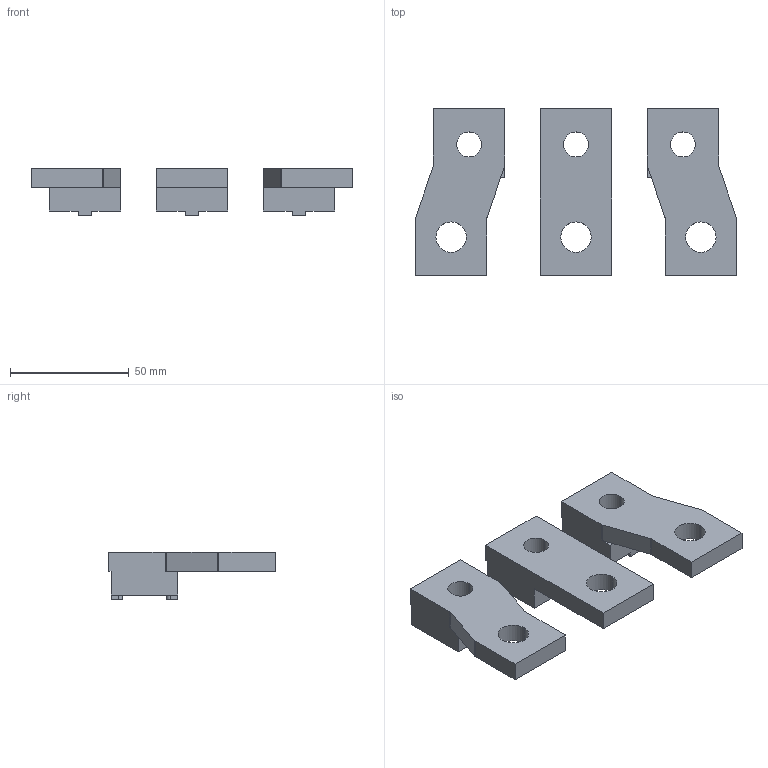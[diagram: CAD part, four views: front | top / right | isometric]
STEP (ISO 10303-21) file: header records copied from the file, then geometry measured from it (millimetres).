
FILE_DESCRIPTION (( 'STEP AP214' ), '1' );
FILE_NAME ('Ðàñøèðèòåëè ïîëþñîâ OptiMat D400, D630 êîðîòêèé (íèæíèå).STEP', '2023-04-03T03:43:56', ( '' ), ( '' ), 'SwSTEP 2.0', 'SolidWorks 2018', '' );
FILE_SCHEMA (( 'AUTOMOTIVE_DESIGN' ));
Length unit declared in the file: millimetre
Products named in the file (1): Ðàñøèðèòåëè ïîëþñîâ OptiMat D400, D630 êîðîòêèé (íèæíèå)
Bounding box: 135 x 70 x 20 mm (x, y, z)
Volume: 68149.1 mm3; surface area: 22626.6 mm2
Topology: 3 solids, 3 shells, 96 faces, 268 edges, 178 vertices
Faces by surface type: plane 64, cylinder 32
Entity records: 3156 total; most frequent: CARTESIAN_POINT 543, ORIENTED_EDGE 536, DIRECTION 526, EDGE_CURVE 268, LINE 204, VECTOR 204, VERTEX_POINT 178, AXIS2_PLACEMENT_3D 161
